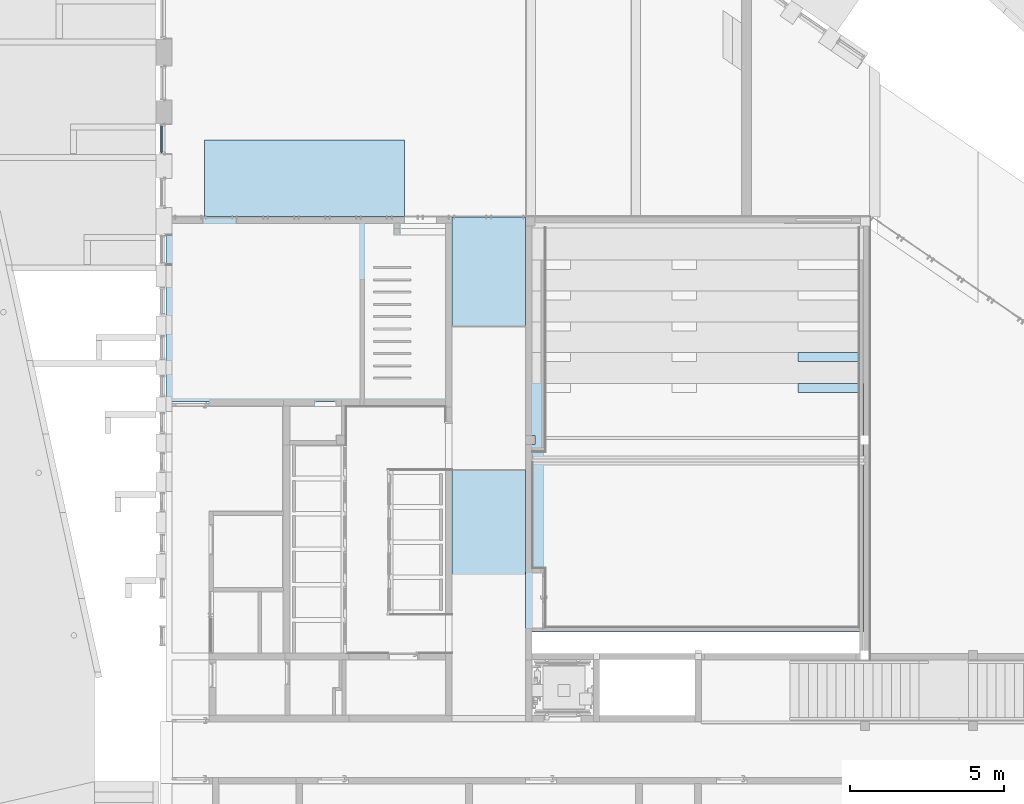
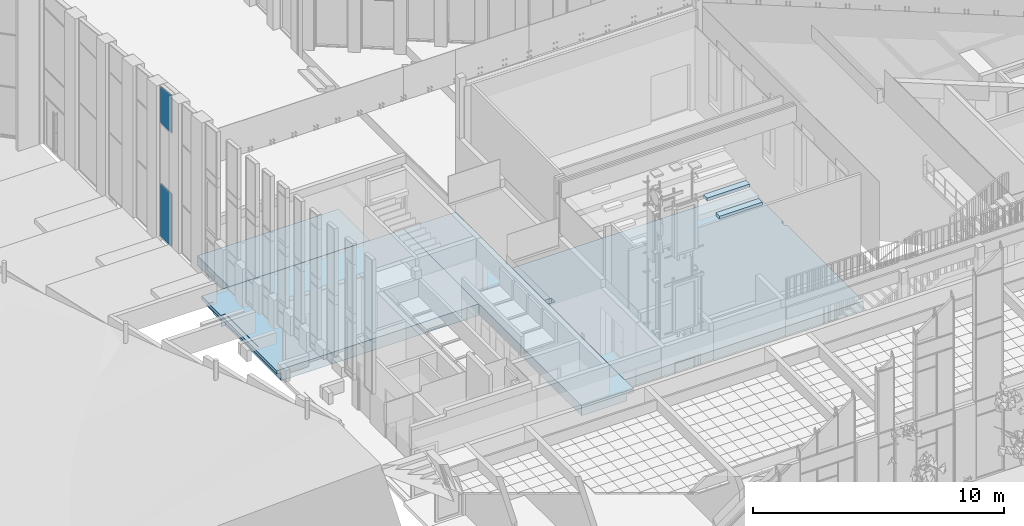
# One storey, part 97 of 246: 6 slabs, 2 plates, 1 element without a shape of its own.
"""IFC2X3 building model written with IfcOpenShell, lengths in millimetres."""

from ifc_helpers import new_model, entity, si_unit, converted_unit, derived_unit, money_unit, direction, frame, origin_with_axes, place, context, subcontext, project, spatial, faceted_brep, material, material_list, type_object, element, aggregate, save


model = new_model("IFC2X3")

# Units and contexts
model_context = context("Model", 3, precision=0.01, world=origin_with_axes(), true_north=direction((0.0, 1.0)))
body_context = subcontext(model_context, "Body", "Model", "MODEL_VIEW")
ifc_project = project(units=[si_unit("LENGTHUNIT", "METRE", prefix="MILLI"), si_unit("AREAUNIT", "SQUARE_METRE"), si_unit("VOLUMEUNIT", "CUBIC_METRE"), converted_unit("PLANEANGLEUNIT", "DEGREE", entity("IfcPlaneAngleMeasure", 0.0174532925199), si_unit("PLANEANGLEUNIT", "RADIAN"), dimensions=[0, 0, 0, 0, 0, 0, 0]), si_unit("SOLIDANGLEUNIT", "STERADIAN"), money_unit("EUR"), converted_unit("TIMEUNIT", "Year", entity("IfcTimeMeasure", 31556926.0), si_unit("TIMEUNIT", "SECOND"), dimensions=[0, 0, 1, 0, 0, 0, 0]), si_unit("MASSUNIT", "GRAM", prefix="KILO"), si_unit("THERMODYNAMICTEMPERATUREUNIT", "DEGREE_CELSIUS"), si_unit("LUMINOUSINTENSITYUNIT", "LUMEN"), si_unit("ENERGYUNIT", "JOULE", prefix="MEGA"), derived_unit("THERMALCONDUCTANCEUNIT", [(si_unit("POWERUNIT", "WATT"), 1), (si_unit("LENGTHUNIT", "METRE"), -1), (si_unit("THERMODYNAMICTEMPERATUREUNIT", "KELVIN"), -1)]), derived_unit("SPECIFICHEATCAPACITYUNIT", [(si_unit("ENERGYUNIT", "JOULE"), 1), (si_unit("MASSUNIT", "GRAM", prefix="KILO"), -1), (si_unit("THERMODYNAMICTEMPERATUREUNIT", "KELVIN"), -1)]), derived_unit("MASSDENSITYUNIT", [(si_unit("MASSUNIT", "GRAM", prefix="KILO"), 1), (si_unit("VOLUMEUNIT", "CUBIC_METRE"), -1)])], contexts=[model_context])

# Site, building, storey
site_placement = place(None, origin_with_axes())
site = spatial("IfcSite", under=ifc_project, at=site_placement, Name="L.Koidula tn 11b", CompositionType="ELEMENT")
building_placement = place(site_placement, origin_with_axes())
building = spatial("IfcBuilding", under=site, at=building_placement, Name="Rakvere Riigigümnaasium", CompositionType="ELEMENT")
storey_placement = place(building_placement, origin_with_axes())
storey = spatial("IfcBuildingStorey", under=building, at=storey_placement, Name="1.korrus 0,00", CompositionType="ELEMENT", Elevation=0.0)

# Curtain wall, plates
curtain_wall_type = type_object("IfcCurtainWallType", Name="Curtain Wall Type", PredefinedType="NOTDEFINED")
curtain_wall_placement = place(storey_placement, frame((35156.0871538, 34035.34119, 1144.99990202), z_axis=(0.0, 0.0, 1.0), x_axis=(1.0, 0.0, 0.0)))
curtain_wall = element("IfcCurtainWall", 1, at=curtain_wall_placement, inside=storey, type_object=curtain_wall_type, Name="KLF-03-05")
ifc_material_1 = material(Name="Klaaspakett 3x")
plate_type_1 = type_object("IfcPlateType", Name="Distinct Panel 876 x 1757 x 54", PredefinedType="CURTAIN_PANEL")
plate_1_placement = place(curtain_wall_placement, frame((0.0, -2.15908997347e-05, 6470.90587489), z_axis=(0.0, 0.0, 1.0), x_axis=(0.0, 1.0, 0.0)))
plate_1 = element("IfcPlate", 2, at=plate_1_placement, type_object=plate_type_1, material=ifc_material_1, Name="KLF-03-05-Klaasid", ObjectType="CURTAIN_PANEL", context=body_context, shape_type="Brep", body=[
    faceted_brep([(-438.000048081, -27.0, 934.73758658), (438.000022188, -27.0, 842.666271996), (438.000022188, 27.0, 842.666271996), (-438.000048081, 27.0, 934.73758658), (-438.000048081, -27.0, -913.905739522), (438.000050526, -27.0, -913.905739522), (438.000050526, 27.0, -913.905739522), (-438.000048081, 27.0, -913.905739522)], [[[0, 1, 2, 3]], [[0, 4, 5, 1]], [[1, 5, 6, 2]], [[3, 2, 6, 7]], [[4, 0, 3, 7]], [[5, 4, 7, 6]]]),
])
plate_type_2 = type_object("IfcPlateType", Name="Distinct Panel 876 x 2551 x 54", PredefinedType="CURTAIN_PANEL")
plate_2_placement = place(curtain_wall_placement, frame((0.0, -1.59287836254e-05, 1300.00006973), z_axis=(0.0, 0.0, 1.0), x_axis=(0.0, 1.0, 0.0)))
plate_2 = element("IfcPlate", 3, at=plate_2_placement, type_object=plate_type_2, material=ifc_material_1, Name="KLF-03-05-Klaasid", ObjectType="CURTAIN_PANEL", context=body_context, shape_type="Brep", body=[
    faceted_brep([(-437.999984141, -27.0, 1288.0000661), (438.000047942, -27.0, 1288.0000661), (438.000047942, 27.0, 1288.0000661), (-437.999984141, 27.0, 1288.0000661), (-437.999984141, -27.0, -1263.00006178), (437.999931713, -27.0, -1263.00006178), (437.999931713, 27.0, -1263.00006178), (-437.999984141, 27.0, -1263.00006178)], [[[0, 1, 2, 3]], [[0, 4, 5, 1]], [[1, 5, 6, 2]], [[3, 2, 6, 7]], [[4, 0, 3, 7]], [[5, 4, 7, 6]]]),
])
aggregate(curtain_wall, [plate_1, plate_2])

# Slabs
ifc_material_2 = material(Name="Polükarbamiid-2")
ifc_material_3 = material(Name="Betoon - pealevalu")
ifc_material_4 = material(Name="Betoon element / plaat")
ifc_material_5 = material(Name="Soojustus - EPS")
ifc_material_6 = material(Name="Killustik")
ifc_material_list_1 = material_list([ifc_material_2, ifc_material_3, ifc_material_4, ifc_material_5, ifc_material_5, ifc_material_6])
slab_type_1 = type_object("IfcSlabType", Name="PP-01-2 490", PredefinedType="NOTDEFINED")
slab_1_placement = place(storey_placement, frame((36562.0000807, 34010.4554558, 0.0), z_axis=(0.0, 0.0, 1.0), x_axis=(1.0, 0.0, 0.0)))
element("IfcSlab", 4, at=slab_1_placement, inside=storey, type_object=slab_type_1, material=ifc_material_list_1, Name="Põrand pinnasel", PredefinedType="NOTDEFINED", context=body_context, shape_type="Brep", body=[
    faceted_brep([(0.0, -2509.99994034, -5.0), (0.0, -2509.99994034, 0.0), (0.0, 0.0, 0.0), (0.0, 0.0, -5.0), (6498.99991673, -2509.99994491, -5.0), (6498.99991673, -2509.99994491, 0.0), (6498.99991677, 4.32769624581e-05, 0.0), (6498.99991677, 4.32769624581e-05, -5.0)], [[[0, 1, 2, 3]], [[4, 5, 1, 0]], [[2, 1, 5, 6]], [[3, 2, 6, 7]], [[3, 7, 4, 0]], [[7, 6, 5, 4]]]),
    faceted_brep([(0.0, -2509.99994034, -10.0), (0.0, -2509.99994034, -5.0), (0.0, 0.0, -5.0), (0.0, 0.0, -10.0), (6498.99991673, -2509.99994491, -10.0), (6498.99991673, -2509.99994491, -5.0), (6498.99991677, 4.32769624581e-05, -5.0), (6498.99991677, 4.32769624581e-05, -10.0)], [[[0, 1, 2, 3]], [[4, 5, 1, 0]], [[2, 1, 5, 6]], [[3, 2, 6, 7]], [[3, 7, 4, 0]], [[7, 6, 5, 4]]]),
    faceted_brep([(0.0, -2509.99994034, -90.0), (0.0, -2509.99994034, -10.0), (0.0, 0.0, -10.0), (0.0, 0.0, -90.0), (6498.99991673, -2509.99994491, -90.0), (6498.99991673, -2509.99994491, -10.0), (6498.99991677, 4.32769624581e-05, -10.0), (6498.99991677, 4.32769624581e-05, -90.0)], [[[0, 1, 2, 3]], [[4, 5, 1, 0]], [[2, 1, 5, 6]], [[3, 2, 6, 7]], [[3, 7, 4, 0]], [[7, 6, 5, 4]]]),
    faceted_brep([(0.0, -2509.99994034, -190.0), (0.0, -2509.99994034, -90.0), (0.0, 0.0, -90.0), (0.0, 0.0, -190.0), (6498.99991673, -2509.99994491, -190.0), (6498.99991673, -2509.99994491, -90.0), (6498.99991677, 4.32769624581e-05, -90.0), (6498.99991677, 4.32769624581e-05, -190.0)], [[[0, 1, 2, 3]], [[4, 5, 1, 0]], [[2, 1, 5, 6]], [[3, 2, 6, 7]], [[3, 7, 4, 0]], [[7, 6, 5, 4]]]),
    faceted_brep([(0.0, -2509.99994034, -290.0), (0.0, -2509.99994034, -190.0), (0.0, 0.0, -190.0), (0.0, 0.0, -290.0), (6498.99991673, -2509.99994491, -290.0), (6498.99991673, -2509.99994491, -190.0), (6498.99991677, 4.32769624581e-05, -190.0), (6498.99991677, 4.32769624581e-05, -290.0)], [[[0, 1, 2, 3]], [[4, 5, 1, 0]], [[2, 1, 5, 6]], [[3, 2, 6, 7]], [[3, 7, 4, 0]], [[7, 6, 5, 4]]]),
    faceted_brep([(0.0, 0.0, -490.0), (0.0, -2509.99994034, -490.0), (0.0, -2509.99994034, -290.0), (0.0, 0.0, -290.0), (6498.99991677, 4.32769624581e-05, -490.0), (6498.99991673, -2509.99994491, -490.0), (6498.99991673, -2509.99994491, -290.0), (6498.99991677, 4.32769624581e-05, -290.0)], [[[0, 1, 2, 3]], [[0, 4, 5, 1]], [[1, 5, 6, 2]], [[3, 2, 6, 7]], [[4, 0, 3, 7]], [[5, 4, 7, 6]]]),
])
ifc_material_7 = material(Name="Parkett")
ifc_material_list_2 = material_list([ifc_material_7, ifc_material_4, ifc_material_5, ifc_material_5, ifc_material_6])
slab_type_2 = type_object("IfcSlabType", Name="PP-01 490", PredefinedType="NOTDEFINED")
slab_2_placement = place(storey_placement, frame((44599.9999205, 25490.4517073, 0.0), z_axis=(0.0, 0.0, 1.0), x_axis=(1.0, 0.0, 0.0)))
element("IfcSlab", 5, at=slab_2_placement, inside=storey, type_object=slab_type_2, material=ifc_material_list_2, Name="Põrand pinnasel", PredefinedType="NOTDEFINED", context=body_context, shape_type="Brep", body=[
    faceted_brep([(-0.013532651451, -8179.99618481, 0.0), (-0.013532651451, -8179.99618481, -10.0), (2400.00008728, -8179.99618481, -10.0), (2400.00008728, -8179.99618481, 0.0), (0.0, 6010.00380788, 0.0), (0.0, 6010.00380788, -10.0), (2400.00008728, 6010.00380788, -10.0), (2400.00008728, 6010.00380788, 0.0)], [[[0, 1, 2, 3]], [[1, 0, 4, 5]], [[2, 1, 5, 6]], [[3, 2, 6, 7]], [[7, 4, 0, 3]], [[7, 6, 5, 4]]]),
    faceted_brep([(-0.013532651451, -8179.99618481, -90.0), (-0.013532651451, -8179.99618481, -10.0), (0.0, 0.0, -10.0), (0.0, 0.0, -90.0), (2400.00008728, -8179.99618481, -90.0), (2400.00008728, -8179.99618481, -10.0), (2400.00008728, -1389.99614405, -10.0), (2400.00008728, 6010.00380788, -10.0), (0.0, 6010.00380788, -10.0), (0.0, 6010.00380788, -90.0), (2400.00008728, 6010.00380788, -90.0), (2400.00008728, -1389.99614405, -90.0)], [[[0, 1, 2, 3]], [[4, 5, 1, 0]], [[2, 1, 5, 6, 7, 8]], [[3, 2, 8, 9]], [[3, 9, 10, 11, 4, 0]], [[11, 6, 5, 4]], [[10, 7, 6, 11]], [[9, 8, 7, 10]]]),
    faceted_brep([(2400.00007297, 5810.00380788, -170.0), (2400.00007297, 6010.00380788, -170.0), (2400.00008728, 6010.00380788, -90.0), (2400.00008728, -8179.99618481, -90.0), (2400.00008728, -8179.99618481, -170.0), (2300.00007325, 6010.00380788, -170.000000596), (2300.00147259, -8179.99618481, -170.0), (2300.00007315, 6010.00380771, -190.0), (0.0, 6010.00380788, -190.0), (0.0, 6010.00380788, -90.0), (-0.013532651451, -8179.99618481, -90.0), (-0.013532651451, -8179.99618481, -190.0), (2300.00146131, -8179.99618481, -190.0)], [[[0, 1, 2, 3, 4]], [[5, 1, 0, 4, 6]], [[5, 7, 8, 9, 2, 1]], [[9, 10, 3, 2]], [[6, 4, 3, 10, 11, 12]], [[7, 5, 6, 12]], [[7, 12, 11, 8]], [[9, 8, 11, 10]]]),
    faceted_brep([(2100.00007262, 6010.00380662, -190.0), (0.0, 6010.00380788, -190.0), (-0.013532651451, -8179.99618481, -190.0), (2100.00007325, -8179.99618481, -190.0), (2100.00006946, 6010.00380034, -290.0), (0.0, 6010.00380788, -290.0), (-0.013532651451, -8179.99618481, -290.0), (2100.00007325, -8179.99618481, -290.0)], [[[0, 1, 2, 3]], [[0, 4, 5, 1]], [[6, 2, 1, 5]], [[7, 3, 2, 6]], [[4, 0, 3, 7]], [[4, 7, 6, 5]]]),
    faceted_brep([(2100.00006946, 6010.00380034, -290.0), (0.0, 6010.00380788, -290.0), (-0.013532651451, -8179.99618481, -290.0), (2100.00007325, -8179.99618481, -290.0), (2100.00006313, 6010.00378779, -490.0), (0.0, 6010.00380788, -490.0), (-0.013532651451, -8179.99618481, -490.0), (2100.00007325, -8179.99618481, -490.0)], [[[0, 1, 2, 3]], [[0, 4, 5, 1]], [[5, 6, 2, 1]], [[7, 3, 2, 6]], [[4, 0, 3, 7]], [[4, 7, 6, 5]]]),
])
slab_type_3 = type_object("IfcSlabType", Name="PP-02-1 560", PredefinedType="NOTDEFINED")
slab_3_placement = place(storey_placement, frame((44599.9999911, 31500.4555111, 0.0), z_axis=(0.0, 0.0, 1.0), x_axis=(1.0, 0.0, 0.0)))
element("IfcSlab", 6, at=slab_3_placement, inside=storey, type_object=slab_type_3, material=ifc_material_list_1, Name="Põrand pinnasel", PredefinedType="NOTDEFINED", context=body_context, shape_type="Brep", body=[
    faceted_brep([(-9099.99993896, -1560.00010572, -3.0), (-9099.99993896, -6005.0038348, -3.0), (-9099.99993896, -6005.0038348, 0.0), (-9099.99993896, -1560.00010572, 0.0), (-9299.98397606, -1560.00010572, -3.0), (-9299.98394579, -1540.00010572, -3.0), (-9099.99993896, -1540.00010572, -3.0), (-9099.99993896, -589.999985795, -3.0), (-9299.98250787, -589.999985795, -3.0), (-9299.98161484, 4.0680845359e-06, -3.0), (0.0, 0.0, -3.0), (0.0, -6005.0038348, -3.0), (0.0, -6005.0038348, 0.0), (0.0, 0.0, 0.0), (-9299.98161484, 4.0680845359e-06, 0.0), (-9299.98250787, -589.999985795, 0.0), (-9099.99993896, -589.999985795, 0.0), (-9099.99993896, -1540.00010572, 0.0), (-9299.98394579, -1540.00010572, 0.0), (-9299.98397606, -1560.00010572, 0.0)], [[[0, 1, 2, 3]], [[1, 0, 4, 5, 6, 7, 8, 9, 10, 11]], [[2, 1, 11, 12]], [[2, 12, 13, 14, 15, 16, 17, 18, 19, 3]], [[3, 19, 4, 0]], [[4, 19, 18, 5]], [[18, 17, 6, 5]], [[17, 16, 7, 6]], [[16, 15, 8, 7]], [[8, 15, 14, 9]], [[10, 9, 14, 13]], [[11, 10, 13, 12]]]),
    faceted_brep([(-9099.99993896, -1560.00010572, -10.0), (-9099.99993896, -6005.0038348, -10.0), (-9099.99993896, -6005.0038348, -3.0), (-9099.99993896, -1560.00010572, -3.0), (-9299.98397606, -1560.00010572, -10.0), (-9299.98394579, -1540.00010572, -10.0), (-9099.99993896, -1540.00010572, -10.0), (-9099.99993896, -589.999985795, -10.0), (-9299.98250787, -589.999985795, -10.0), (-9299.98161484, 4.0680845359e-06, -10.0), (0.0, 0.0, -10.0), (0.0, -6005.0038348, -10.0), (0.0, -6005.0038348, -3.0), (0.0, 0.0, -3.0), (-9299.98161484, 4.0680845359e-06, -3.0), (-9299.98250787, -589.999985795, -3.0), (-9099.99993896, -589.999985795, -3.0), (-9099.99993896, -1540.00010572, -3.0), (-9299.98394579, -1540.00010572, -3.0), (-9299.98397606, -1560.00010572, -3.0)], [[[0, 1, 2, 3]], [[1, 0, 4, 5, 6, 7, 8, 9, 10, 11]], [[2, 1, 11, 12]], [[2, 12, 13, 14, 15, 16, 17, 18, 19, 3]], [[3, 19, 4, 0]], [[4, 19, 18, 5]], [[18, 17, 6, 5]], [[17, 16, 7, 6]], [[16, 15, 8, 7]], [[8, 15, 14, 9]], [[10, 9, 14, 13]], [[11, 10, 13, 12]]]),
    faceted_brep([(0.0, 0.0, -160.0), (-9299.98161484, 4.0680845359e-06, -160.0), (-9299.98161484, 4.0680845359e-06, -10.0), (0.0, 0.0, -10.0), (0.0, -6005.0038348, -160.0), (-9299.99070401, -6005.0038348, -160.0), (-9299.99070401, -6005.0038348, -10.0), (0.0, -6005.0038348, -10.0)], [[[0, 1, 2, 3]], [[1, 0, 4, 5]], [[1, 5, 6, 2]], [[7, 3, 2, 6]], [[4, 0, 3, 7]], [[5, 4, 7, 6]]]),
    faceted_brep([(-9099.99993896, -1560.00010572, -260.0), (-9099.99993896, -6005.0038348, -260.0), (-9099.99993896, -6005.0038348, -160.0), (-9099.99993896, -1560.00010572, -160.0), (-9299.98397606, -1560.00010572, -260.0), (-9299.98394579, -1540.00010572, -260.0), (-9099.99993896, -1540.00010572, -260.0), (-9099.99993896, -589.999985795, -260.0), (-9074.99993896, -589.999985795, -260.0), (-9074.99993896, 3.96967081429e-06, -260.0), (0.0, 0.0, -260.0), (0.0, -6005.0038348, -260.0), (0.0, -6005.0038348, -160.0), (0.0, 0.0, -160.0), (-9074.99993896, 3.96967081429e-06, -160.0), (-9074.99993896, -589.999985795, -160.0), (-9099.99993896, -589.999985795, -160.0), (-9099.99993896, -1540.00010572, -160.0), (-9299.98394579, -1540.00010572, -160.0), (-9299.98397606, -1560.00010572, -160.0)], [[[0, 1, 2, 3]], [[1, 0, 4, 5, 6, 7, 8, 9, 10, 11]], [[2, 1, 11, 12]], [[2, 12, 13, 14, 15, 16, 17, 18, 19, 3]], [[3, 19, 4, 0]], [[4, 19, 18, 5]], [[18, 17, 6, 5]], [[17, 16, 7, 6]], [[7, 16, 15, 8]], [[15, 14, 9, 8]], [[9, 14, 13, 10]], [[11, 10, 13, 12]]]),
    faceted_brep([(-9099.99993896, -1560.00010572, -360.0), (-9099.99993896, -6005.0038348, -360.0), (-9099.99993896, -6005.0038348, -260.0), (-9099.99993896, -1560.00010572, -260.0), (-9299.98397606, -1560.00010572, -360.0), (-9299.98394579, -1540.00010572, -360.0), (-9099.99993896, -1540.00010572, -360.0), (-9099.99993896, -589.999985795, -360.0), (-9074.99993896, -589.999985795, -360.0), (-9074.99993896, 3.96967081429e-06, -360.0), (0.0, 0.0, -360.0), (0.0, -6005.0038348, -360.0), (0.0, -6005.0038348, -260.0), (0.0, 0.0, -260.0), (-9074.99993896, 3.96967081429e-06, -260.0), (-9074.99993896, -589.999985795, -260.0), (-9099.99993896, -589.999985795, -260.0), (-9099.99993896, -1540.00010572, -260.0), (-9299.98394579, -1540.00010572, -260.0), (-9299.98397606, -1560.00010572, -260.0)], [[[0, 1, 2, 3]], [[1, 0, 4, 5, 6, 7, 8, 9, 10, 11]], [[2, 1, 11, 12]], [[2, 12, 13, 14, 15, 16, 17, 18, 19, 3]], [[3, 19, 4, 0]], [[4, 19, 18, 5]], [[18, 17, 6, 5]], [[17, 16, 7, 6]], [[7, 16, 15, 8]], [[15, 14, 9, 8]], [[9, 14, 13, 10]], [[11, 10, 13, 12]]]),
    faceted_brep([(-9099.99993896, -1560.00010572, -560.0), (-9099.99993896, -6005.0038348, -560.0), (-9099.99993896, -6005.0038348, -360.0), (-9099.99993896, -1560.00010572, -360.0), (-9299.98397606, -1560.00010572, -560.0), (-9299.98394579, -1540.00010572, -560.0), (-9099.99993896, -1540.00010572, -560.0), (-9099.99993896, -589.999985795, -560.0), (-9074.99993896, -589.999985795, -560.0), (-9074.99993896, 3.96967081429e-06, -560.0), (0.0, 0.0, -560.0), (0.0, -6005.0038348, -560.0), (0.0, -6005.0038348, -360.0), (0.0, 0.0, -360.0), (-9074.99993896, 3.96967081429e-06, -360.0), (-9074.99993896, -589.999985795, -360.0), (-9099.99993896, -589.999985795, -360.0), (-9099.99993896, -1540.00010572, -360.0), (-9299.98394579, -1540.00010572, -360.0), (-9299.98397606, -1560.00010572, -360.0)], [[[0, 1, 2, 3]], [[1, 0, 4, 5, 6, 7, 8, 9, 10, 11]], [[2, 1, 11, 12]], [[2, 12, 13, 14, 15, 16, 17, 18, 19, 3]], [[3, 19, 4, 0]], [[4, 19, 18, 5]], [[18, 17, 6, 5]], [[17, 16, 7, 6]], [[7, 16, 15, 8]], [[15, 14, 9, 8]], [[9, 14, 13, 10]], [[12, 11, 10, 13]]]),
])
ifc_material_8 = material(Name="vaip")
ifc_material_9 = material(Name="Betoon")
ifc_material_10 = material(Name="Mürasummutus vill")
ifc_material_11 = material(Name="Betoon õõnespaneel")
ifc_material_list_3 = material_list([ifc_material_8, ifc_material_3, ifc_material_9, ifc_material_10, ifc_material_11])
slab_type_4 = type_object("IfcSlabType", Name="VL-02-2 450", PredefinedType="NOTDEFINED")
slab_4_placement = place(storey_placement, frame((46999.9999935, 18010.4555095, 0.0), z_axis=(0.0, 0.0, 1.0), x_axis=(1.0, 0.0, 0.0)))
element("IfcSlab", 7, at=slab_4_placement, inside=storey, type_object=slab_type_4, material=ifc_material_list_3, Name="Vahelagi", PredefinedType="NOTDEFINED", context=body_context, shape_type="Brep", body=[
    faceted_brep([(10880.0348884, 6090.00003772, 0.0), (10880.0348884, 6390.00003772, 0.0), (10980.0727947, 6390.00003772, 0.0), (10980.0727947, 8990.00003772, 0.0), (0.0, 8990.00003772, 0.0), (0.00139961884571, 6390.00003772, 0.0), (300.001399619, 6390.00003772, 0.0), (300.001399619, 6090.00003772, 0.0), (0.00139961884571, 6090.00003772, 0.0), (0.0, 0.0, 0.0), (10980.0727947, 0.0, 0.0), (10980.0727947, 6090.00003772, 0.0), (10880.0348884, 6090.00003772, -5.0), (10880.0348884, 6390.00003772, -5.0), (10980.0727947, 6390.00003772, -5.0), (10980.0727947, 8990.00003772, -5.0), (0.0, 8990.00003772, -5.0), (0.00139961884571, 6390.00003772, -5.0), (300.001399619, 6390.00003772, -5.0), (300.001399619, 6090.00003772, -5.0), (0.00139961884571, 6090.00003772, -5.0), (0.0, 0.0, -5.0), (10980.0727947, 0.0, -5.0), (10980.0727947, 6090.00003772, -5.0)], [[[0, 1, 2, 3, 4, 5, 6, 7, 8, 9, 10, 11]], [[1, 0, 12, 13]], [[14, 2, 1, 13]], [[2, 14, 15, 3]], [[15, 16, 4, 3]], [[17, 5, 4, 16]], [[6, 5, 17, 18]], [[7, 6, 18, 19]], [[8, 7, 19, 20]], [[8, 20, 21, 9]], [[21, 22, 10, 9]], [[23, 11, 10, 22]], [[0, 11, 23, 12]], [[12, 23, 22, 21, 20, 19, 18, 17, 16, 15, 14, 13]]]),
    faceted_brep([(10880.0348884, 6090.00003772, -5.0), (10880.0348884, 6390.00003772, -5.0), (10980.0727947, 6390.00003772, -5.0), (10980.0727947, 8990.00003772, -5.0), (0.0, 8990.00003772, -5.0), (0.00139961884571, 6390.00003772, -5.0), (300.001399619, 6390.00003772, -5.0), (300.001399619, 6090.00003772, -5.0), (0.00139961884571, 6090.00003772, -5.0), (0.0, 0.0, -5.0), (10980.0727947, 0.0, -5.0), (10980.0727947, 6090.00003772, -5.0), (10880.0348884, 6090.00003772, -10.0), (10880.0348884, 6390.00003772, -10.0), (10980.0727947, 6390.00003772, -10.0), (10980.0727947, 8990.00003772, -10.0), (0.0, 8990.00003772, -10.0), (0.00139961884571, 6390.00003772, -10.0), (300.001399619, 6390.00003772, -10.0), (300.001399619, 6090.00003772, -10.0), (0.00139961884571, 6090.00003772, -10.0), (0.0, 0.0, -10.0), (10980.0727947, 0.0, -10.0), (10980.0727947, 6090.00003772, -10.0)], [[[0, 1, 2, 3, 4, 5, 6, 7, 8, 9, 10, 11]], [[1, 0, 12, 13]], [[14, 2, 1, 13]], [[2, 14, 15, 3]], [[15, 16, 4, 3]], [[17, 5, 4, 16]], [[6, 5, 17, 18]], [[7, 6, 18, 19]], [[8, 7, 19, 20]], [[8, 20, 21, 9]], [[21, 22, 10, 9]], [[23, 11, 10, 22]], [[0, 11, 23, 12]], [[12, 23, 22, 21, 20, 19, 18, 17, 16, 15, 14, 13]]]),
    faceted_brep([(10880.0348884, 6090.00003772, -10.0), (10880.0348884, 6390.00003772, -10.0), (10980.0727947, 6390.00003772, -10.0), (10980.0727947, 8990.00003772, -10.0), (0.0, 8990.00003772, -10.0), (0.00139961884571, 6390.00003772, -10.0), (300.001399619, 6390.00003772, -10.0), (300.001399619, 6090.00003772, -10.0), (0.00139961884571, 6090.00003772, -10.0), (0.0, 0.0, -10.0), (10980.0727947, 0.0, -10.0), (10980.0727947, 6090.00003772, -10.0), (10880.0348884, 6090.00003772, -100.0), (10880.0348884, 6390.00003772, -100.0), (10980.0727947, 6390.00003772, -100.0), (10980.0727947, 8990.00003772, -100.0), (0.0, 8990.00003772, -100.0), (0.00139961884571, 6390.00003772, -100.0), (300.001399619, 6390.00003772, -100.0), (300.001399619, 6090.00003772, -100.0), (0.00139961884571, 6090.00003772, -100.0), (0.0, 0.0, -100.0), (10980.0727947, 0.0, -100.0), (10980.0727947, 6090.00003772, -100.0)], [[[0, 1, 2, 3, 4, 5, 6, 7, 8, 9, 10, 11]], [[1, 0, 12, 13]], [[14, 2, 1, 13]], [[2, 14, 15, 3]], [[15, 16, 4, 3]], [[17, 5, 4, 16]], [[6, 5, 17, 18]], [[7, 6, 18, 19]], [[8, 7, 19, 20]], [[8, 20, 21, 9]], [[21, 22, 10, 9]], [[23, 11, 10, 22]], [[0, 11, 23, 12]], [[12, 23, 22, 21, 20, 19, 18, 17, 16, 15, 14, 13]]]),
    faceted_brep([(10880.0348884, 6090.00003772, -100.0), (10880.0348884, 6390.00003772, -100.0), (10980.0727947, 6390.00003772, -100.0), (10980.0727947, 8990.00003772, -100.0), (0.0, 8990.00003772, -100.0), (0.00139961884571, 6390.00003772, -100.0), (300.001399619, 6390.00003772, -100.0), (300.001399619, 6090.00003772, -100.0), (0.00139961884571, 6090.00003772, -100.0), (0.0, 0.0, -100.0), (10980.0727947, 0.0, -100.0), (10980.0727947, 6090.00003772, -100.0), (10880.0348884, 6090.00003772, -130.0), (10880.0348884, 6390.00003772, -130.0), (10980.0727947, 6390.00003772, -130.0), (10980.0727947, 8990.00003772, -130.0), (0.0, 8990.00003772, -130.0), (0.00139961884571, 6390.00003772, -130.0), (300.001399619, 6390.00003772, -130.0), (300.001399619, 6090.00003772, -130.0), (0.00139961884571, 6090.00003772, -130.0), (0.0, 0.0, -130.0), (10980.0727947, 0.0, -130.0), (10980.0727947, 6090.00003772, -130.0)], [[[0, 1, 2, 3, 4, 5, 6, 7, 8, 9, 10, 11]], [[1, 0, 12, 13]], [[14, 2, 1, 13]], [[2, 14, 15, 3]], [[15, 16, 4, 3]], [[17, 5, 4, 16]], [[6, 5, 17, 18]], [[7, 6, 18, 19]], [[8, 7, 19, 20]], [[8, 20, 21, 9]], [[21, 22, 10, 9]], [[23, 11, 10, 22]], [[0, 11, 23, 12]], [[12, 23, 22, 21, 20, 19, 18, 17, 16, 15, 14, 13]]]),
    faceted_brep([(10880.0348884, 6090.00003772, -130.0), (10880.0348884, 6390.00003772, -130.0), (10980.0727947, 6390.00003772, -130.0), (10980.0727947, 8990.00003772, -130.0), (0.0, 8990.00003772, -130.0), (0.00139961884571, 6390.00003772, -130.0), (300.001399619, 6390.00003772, -130.0), (300.001399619, 6090.00003772, -130.0), (0.00139961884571, 6090.00003772, -130.0), (0.0, 0.0, -130.0), (10980.0727947, 0.0, -130.0), (10980.0727947, 6090.00003772, -130.0), (10880.0348884, 6090.00003772, -450.0), (10880.0348884, 6390.00003772, -450.0), (10980.0727947, 6390.00003772, -450.0), (10980.0727947, 8990.00003772, -450.0), (0.0, 8990.00003772, -450.0), (0.00139961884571, 6390.00003772, -450.0), (300.001399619, 6390.00003772, -450.0), (300.001399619, 6090.00003772, -450.0), (0.00139961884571, 6090.00003772, -450.0), (0.0, 0.0, -450.0), (10980.0727947, 0.0, -450.0), (10980.0727947, 6090.00003772, -450.0)], [[[0, 1, 2, 3, 4, 5, 6, 7, 8, 9, 10, 11]], [[1, 0, 12, 13]], [[14, 2, 1, 13]], [[2, 14, 15, 3]], [[4, 3, 15, 16]], [[17, 5, 4, 16]], [[6, 5, 17, 18]], [[7, 6, 18, 19]], [[8, 7, 19, 20]], [[8, 20, 21, 9]], [[10, 9, 21, 22]], [[23, 11, 10, 22]], [[0, 11, 23, 12]], [[12, 23, 22, 21, 20, 19, 18, 17, 16, 15, 14, 13]]]),
])
slab_type_5 = type_object("IfcSlabType", Name="Betoon 160", PredefinedType="NOTDEFINED")
for number, where, z_axis, x_axis in (
    (8, (57825.577497, 25795.4561877, 139.5), (0.0, 0.0, 1.0), (1.0, 0.0, 0.0)),
    (9, (57825.577497, 26795.4555287, 418.993831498), (0.0, 0.0, 1.0), (1.0, 0.0, 0.0)),
):
    element("IfcSlab", number, at=place(storey_placement, frame(where, z_axis=z_axis, x_axis=x_axis)), inside=storey, type_object=slab_type_5, material=ifc_material_9, Name="Põrand pinnasel", PredefinedType="NOTDEFINED", context=body_context, shape_type="Brep", body=[
        faceted_brep([(0.0, 0.0, 0.0), (0.0, 0.0, -160.0), (0.0, 300.0, -160.0), (0.0, 300.0, 0.0), (-1970.04268687, 0.0, 0.0), (-1970.04268687, 0.0, -160.0), (-1970.04268687, 300.0, -160.0), (-1970.04268687, 300.0, 0.0)], [[[0, 1, 2, 3]], [[4, 5, 1, 0]], [[2, 1, 5, 6]], [[3, 2, 6, 7]], [[4, 0, 3, 7]], [[7, 6, 5, 4]]]),
    ])

save(model, "model.ifc")
